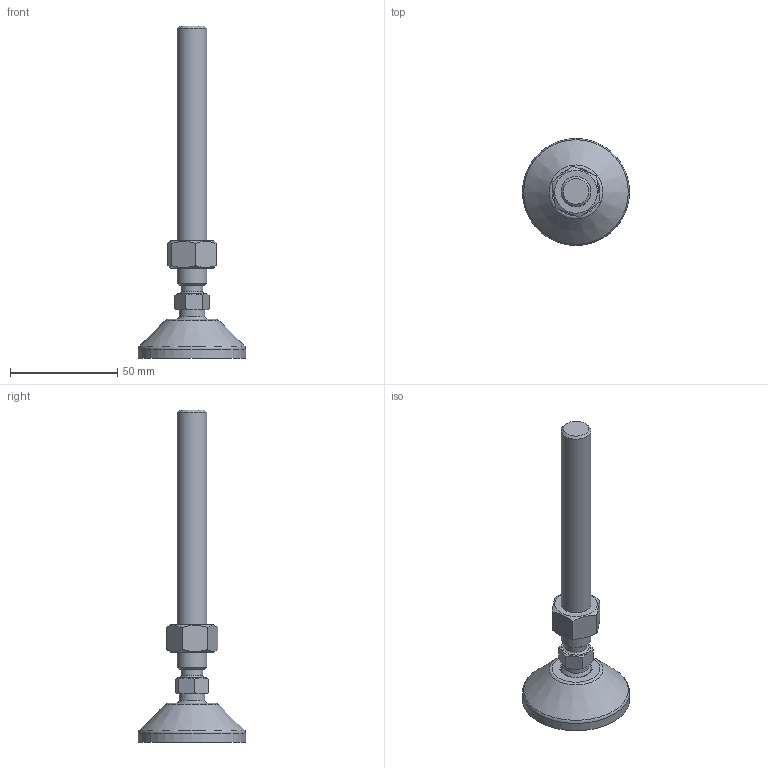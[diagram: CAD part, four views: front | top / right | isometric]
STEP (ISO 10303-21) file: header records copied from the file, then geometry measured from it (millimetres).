
FILE_DESCRIPTION(('STEP AP203'), '1');
FILE_NAME('栖闉罻', '', ('UNSPECIFIED'), ('UNSPECIFIED'), 'C3D Converter', 'C3D Toolkit', '');
FILE_SCHEMA(('CONFIG_CONTROL_DESIGN'));
Length unit declared in the file: millimetre
Products named in the file (4): A00015.1050; A00020.114125
Assembly tree (3 placements, depth 3):
  (unnamed)
    A00015.1050
    A00020.114125
      (unnamed)
Bounding box: 50 x 50 x 154.9 mm (x, y, z)
Volume: 40890.5 mm3; surface area: 16369.1 mm2
Topology: 3 solids, 3 shells, 189 faces, 500 edges, 330 vertices
Faces by surface type: plane 87, cylinder 50, torus 30, cone 20, sphere 2
Full cylindrical faces by diameter (mm): 4 x8, 10.2 x1, 11.835 x1, 12 x1, 14 x1, 14.3 x1, 15 x2, 15.5 x1, 39 x1, 50 x1
Entity records: 9859 total; most frequent: CARTESIAN_POINT 3591, DIRECTION 956, ORIENTED_EDGE 930, EDGE_CURVE 465, AXIS2_PLACEMENT_3D 400, VERTEX_POINT 329, EDGE_LOOP 238, CIRCLE 207
